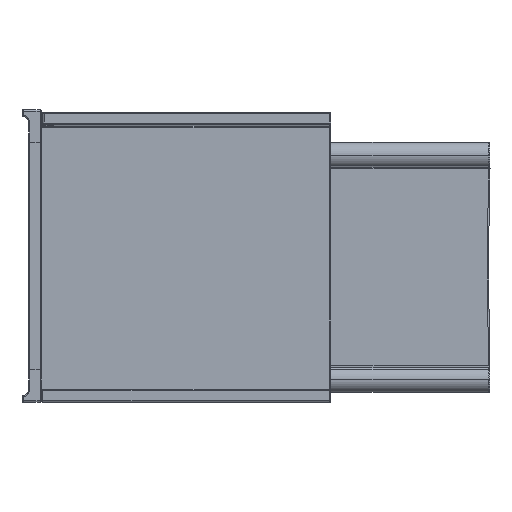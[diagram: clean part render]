
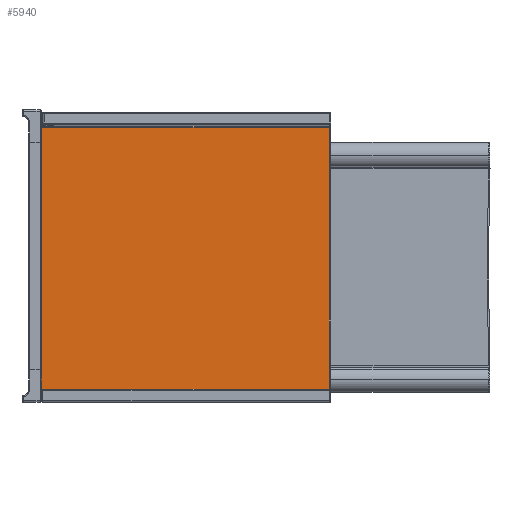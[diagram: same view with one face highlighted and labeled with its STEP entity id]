
A CAD part, left-side view. The second image highlights one B-rep face of the part: STEP entity #5940.
In plain terms, the highlighted planar face has unit normal (-1, 0, 0).
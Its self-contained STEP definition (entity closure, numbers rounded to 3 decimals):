
#136 = VECTOR ( 'NONE', #840, 1000. ) ;
#148 = VERTEX_POINT ( 'NONE', #8005 ) ;
#760 = ORIENTED_EDGE ( 'NONE', *, *, #7675, .T. ) ;
#840 = DIRECTION ( 'NONE',  ( 0., -1., 0. ) ) ;
#903 = LINE ( 'NONE', #3471, #136 ) ;
#1552 = DIRECTION ( 'NONE',  ( 0., 0., -1. ) ) ;
#2085 = CARTESIAN_POINT ( 'NONE',  ( -950., 445., 423. ) ) ;
#2304 = CARTESIAN_POINT ( 'NONE',  ( -950., 445., 870.364 ) ) ;
#2356 = ORIENTED_EDGE ( 'NONE', *, *, #10677, .T. ) ;
#2410 = DIRECTION ( 'NONE',  ( 0., 0., -1. ) ) ;
#2412 = LINE ( 'NONE', #6750, #2740 ) ;
#2568 = DIRECTION ( 'NONE',  ( 0., 0., -1. ) ) ;
#2724 = CARTESIAN_POINT ( 'NONE',  ( -950., 2., 20. ) ) ;
#2740 = VECTOR ( 'NONE', #1552, 1000. ) ;
#2791 = CARTESIAN_POINT ( 'NONE',  ( -950., 2., 870.364 ) ) ;
#3073 = LINE ( 'NONE', #4946, #7611 ) ;
#3183 = DIRECTION ( 'NONE',  ( 0., 1., 0. ) ) ;
#3257 = EDGE_CURVE ( 'NONE', #4959, #8703, #3073, .T. ) ;
#3471 = CARTESIAN_POINT ( 'NONE',  ( -950., 0., 20. ) ) ;
#3557 = EDGE_LOOP ( 'NONE', ( #8627, #7311, #5764, #760, #3840, #2356 ) ) ;
#3840 = ORIENTED_EDGE ( 'NONE', *, *, #10211, .T. ) ;
#4337 = PLANE ( 'NONE',  #6784 ) ;
#4514 = FACE_OUTER_BOUND ( 'NONE', #3557, .T. ) ;
#4692 = CARTESIAN_POINT ( 'NONE',  ( -950., 2., 423. ) ) ;
#4734 = LINE ( 'NONE', #2791, #9213 ) ;
#4946 = CARTESIAN_POINT ( 'NONE',  ( -950., 445., 423. ) ) ;
#4959 = VERTEX_POINT ( 'NONE', #4692 ) ;
#5306 = EDGE_CURVE ( 'NONE', #5626, #4959, #4734, .T. ) ;
#5626 = VERTEX_POINT ( 'NONE', #2724 ) ;
#5764 = ORIENTED_EDGE ( 'NONE', *, *, #6831, .T. ) ;
#5768 = CARTESIAN_POINT ( 'NONE',  ( -950., 445., 20. ) ) ;
#5940 = ADVANCED_FACE ( 'NONE', ( #4514 ), #4337, .F. ) ;
#6353 = DIRECTION ( 'NONE',  ( 0., 0., -1. ) ) ;
#6686 = VECTOR ( 'NONE', #2410, 1000. ) ;
#6750 = CARTESIAN_POINT ( 'NONE',  ( -950., 445., 870.364 ) ) ;
#6784 = AXIS2_PLACEMENT_3D ( 'NONE', #7147, #8865, #2568 ) ;
#6831 = EDGE_CURVE ( 'NONE', #8703, #148, #2412, .T. ) ;
#7035 = CARTESIAN_POINT ( 'NONE',  ( -950., 445., 870.364 ) ) ;
#7147 = CARTESIAN_POINT ( 'NONE',  ( -950., 0., 870.364 ) ) ;
#7311 = ORIENTED_EDGE ( 'NONE', *, *, #3257, .T. ) ;
#7611 = VECTOR ( 'NONE', #3183, 1000. ) ;
#7675 = EDGE_CURVE ( 'NONE', #148, #9915, #10711, .T. ) ;
#8005 = CARTESIAN_POINT ( 'NONE',  ( -950., 445., 400. ) ) ;
#8097 = CARTESIAN_POINT ( 'NONE',  ( -950., 445., 50. ) ) ;
#8575 = LINE ( 'NONE', #2304, #6686 ) ;
#8627 = ORIENTED_EDGE ( 'NONE', *, *, #5306, .T. ) ;
#8703 = VERTEX_POINT ( 'NONE', #2085 ) ;
#8865 = DIRECTION ( 'NONE',  ( 1., 0., 0. ) ) ;
#9213 = VECTOR ( 'NONE', #10694, 1000. ) ;
#9915 = VERTEX_POINT ( 'NONE', #8097 ) ;
#10211 = EDGE_CURVE ( 'NONE', #9915, #10616, #8575, .T. ) ;
#10305 = VECTOR ( 'NONE', #6353, 1000. ) ;
#10616 = VERTEX_POINT ( 'NONE', #5768 ) ;
#10677 = EDGE_CURVE ( 'NONE', #10616, #5626, #903, .T. ) ;
#10694 = DIRECTION ( 'NONE',  ( 0., 0., 1. ) ) ;
#10711 = LINE ( 'NONE', #7035, #10305 ) ;
